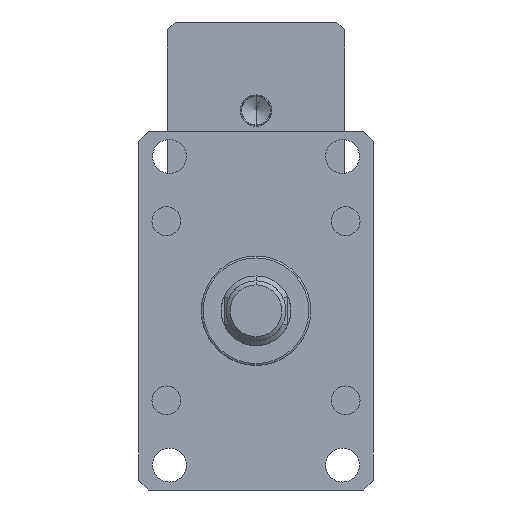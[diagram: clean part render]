
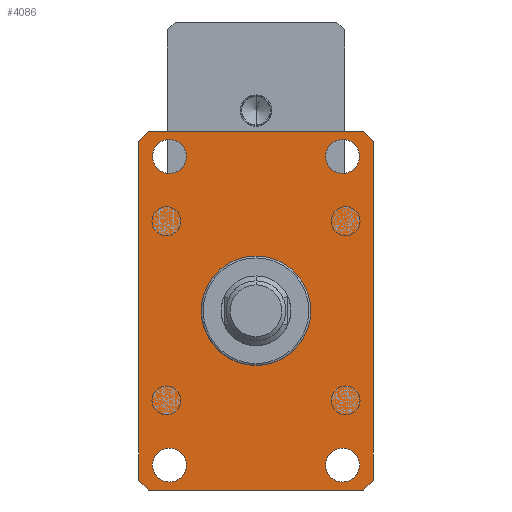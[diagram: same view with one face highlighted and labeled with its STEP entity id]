
A CAD part, front view. The second image highlights one B-rep face of the part: STEP entity #4086.
In plain terms, the highlighted planar face has unit normal (0, -1, 0).
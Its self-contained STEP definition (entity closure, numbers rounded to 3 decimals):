
#90 = ORIENTED_EDGE ( 'NONE', *, *, #12075, .F. ) ;
#123 = ORIENTED_EDGE ( 'NONE', *, *, #1282, .T. ) ;
#179 = VERTEX_POINT ( 'NONE', #1780 ) ;
#414 = EDGE_CURVE ( 'NONE', #3134, #4034, #1423, .T. ) ;
#416 = ORIENTED_EDGE ( 'NONE', *, *, #12633, .T. ) ;
#432 = DIRECTION ( 'NONE',  ( 0., 0., 1. ) ) ;
#697 = EDGE_CURVE ( 'NONE', #4902, #11137, #12599, .T. ) ;
#742 = ORIENTED_EDGE ( 'NONE', *, *, #10011, .T. ) ;
#796 = VERTEX_POINT ( 'NONE', #9262 ) ;
#840 = EDGE_CURVE ( 'NONE', #6824, #4250, #12748, .T. ) ;
#963 = AXIS2_PLACEMENT_3D ( 'NONE', #5141, #11966, #6104 ) ;
#997 = PLANE ( 'NONE',  #11522 ) ;
#1082 = CIRCLE ( 'NONE', #9802, 8.5 ) ;
#1107 = VERTEX_POINT ( 'NONE', #10269 ) ;
#1165 = CARTESIAN_POINT ( 'NONE',  ( -59., -55., -85. ) ) ;
#1273 = LINE ( 'NONE', #11817, #6516 ) ;
#1282 = EDGE_CURVE ( 'NONE', #7975, #796, #10456, .T. ) ;
#1299 = CARTESIAN_POINT ( 'NONE',  ( 59., -55., 85. ) ) ;
#1423 = CIRCLE ( 'NONE', #9517, 8.5 ) ;
#1440 = DIRECTION ( 'NONE',  ( 0., 0., 1. ) ) ;
#1576 = CIRCLE ( 'NONE', #9632, 8.5 ) ;
#1659 = CARTESIAN_POINT ( 'NONE',  ( -43.5, -55., -86. ) ) ;
#1734 = LINE ( 'NONE', #3087, #4060 ) ;
#1780 = CARTESIAN_POINT ( 'NONE',  ( 43.5, -55., -86. ) ) ;
#1921 = EDGE_LOOP ( 'NONE', ( #8375, #4723 ) ) ;
#1993 = CARTESIAN_POINT ( 'NONE',  ( 54., -55., 90. ) ) ;
#2007 = EDGE_LOOP ( 'NONE', ( #123, #416, #12405, #9098, #8796, #742, #5139, #5281 ) ) ;
#2079 = DIRECTION ( 'NONE',  ( -0.707, 0., 0.707 ) ) ;
#2126 = DIRECTION ( 'NONE',  ( 0., 1., 0. ) ) ;
#2192 = DIRECTION ( 'NONE',  ( 0.707, 0., -0.707 ) ) ;
#2195 = EDGE_LOOP ( 'NONE', ( #5740, #6973 ) ) ;
#2258 = DIRECTION ( 'NONE',  ( 0., 1., 0. ) ) ;
#2344 = VERTEX_POINT ( 'NONE', #8439 ) ;
#2414 = CIRCLE ( 'NONE', #963, 8.5 ) ;
#2599 = EDGE_CURVE ( 'NONE', #11578, #7975, #7464, .T. ) ;
#2785 = CARTESIAN_POINT ( 'NONE',  ( 54., -55., 90. ) ) ;
#2895 = CARTESIAN_POINT ( 'NONE',  ( -54., -55., -90. ) ) ;
#3035 = DIRECTION ( 'NONE',  ( 0., 0., 1. ) ) ;
#3087 = CARTESIAN_POINT ( 'NONE',  ( -59., -55., 85. ) ) ;
#3134 = VERTEX_POINT ( 'NONE', #12761 ) ;
#3169 = AXIS2_PLACEMENT_3D ( 'NONE', #7972, #2126, #8969 ) ;
#3278 = ORIENTED_EDGE ( 'NONE', *, *, #414, .F. ) ;
#3313 = CIRCLE ( 'NONE', #3494, 8.5 ) ;
#3468 = CARTESIAN_POINT ( 'NONE',  ( 43.5, -55., -77.5 ) ) ;
#3494 = AXIS2_PLACEMENT_3D ( 'NONE', #3596, #10422, #4579 ) ;
#3596 = CARTESIAN_POINT ( 'NONE',  ( -43.5, -55., 77.5 ) ) ;
#3730 = EDGE_LOOP ( 'NONE', ( #12178, #6587 ) ) ;
#4034 = VERTEX_POINT ( 'NONE', #12528 ) ;
#4060 = VECTOR ( 'NONE', #6961, 1000. ) ;
#4086 = ADVANCED_FACE ( 'NONE', ( #7288, #9578, #12170, #6979, #4387 ), #997, .F. ) ;
#4250 = VERTEX_POINT ( 'NONE', #6530 ) ;
#4387 = FACE_BOUND ( 'NONE', #10945, .T. ) ;
#4453 = DIRECTION ( 'NONE',  ( 0., 0., 1. ) ) ;
#4579 = DIRECTION ( 'NONE',  ( 0., 0., -1. ) ) ;
#4723 = ORIENTED_EDGE ( 'NONE', *, *, #5356, .F. ) ;
#4902 = VERTEX_POINT ( 'NONE', #1299 ) ;
#4986 = DIRECTION ( 'NONE',  ( 0.707, 0., 0.707 ) ) ;
#5099 = AXIS2_PLACEMENT_3D ( 'NONE', #12015, #11964, #11182 ) ;
#5123 = AXIS2_PLACEMENT_3D ( 'NONE', #12232, #6371, #432 ) ;
#5125 = VERTEX_POINT ( 'NONE', #7568 ) ;
#5139 = ORIENTED_EDGE ( 'NONE', *, *, #5536, .T. ) ;
#5141 = CARTESIAN_POINT ( 'NONE',  ( 43.5, -55., 77.5 ) ) ;
#5274 = EDGE_CURVE ( 'NONE', #5125, #179, #1576, .T. ) ;
#5281 = ORIENTED_EDGE ( 'NONE', *, *, #2599, .T. ) ;
#5356 = EDGE_CURVE ( 'NONE', #4250, #6824, #3313, .T. ) ;
#5536 = EDGE_CURVE ( 'NONE', #9230, #11578, #1734, .T. ) ;
#5562 = VECTOR ( 'NONE', #12517, 1000. ) ;
#5610 = EDGE_CURVE ( 'NONE', #179, #5125, #1082, .T. ) ;
#5740 = ORIENTED_EDGE ( 'NONE', *, *, #12706, .T. ) ;
#5794 = LINE ( 'NONE', #7769, #11019 ) ;
#6104 = DIRECTION ( 'NONE',  ( 0., 0., -1. ) ) ;
#6240 = EDGE_CURVE ( 'NONE', #8158, #2344, #6323, .T. ) ;
#6323 = CIRCLE ( 'NONE', #5123, 8.5 ) ;
#6371 = DIRECTION ( 'NONE',  ( 0., 1., 0. ) ) ;
#6516 = VECTOR ( 'NONE', #4986, 1000. ) ;
#6530 = CARTESIAN_POINT ( 'NONE',  ( -43.5, -55., 69. ) ) ;
#6587 = ORIENTED_EDGE ( 'NONE', *, *, #5610, .T. ) ;
#6806 = VERTEX_POINT ( 'NONE', #11955 ) ;
#6824 = VERTEX_POINT ( 'NONE', #9055 ) ;
#6874 = VECTOR ( 'NONE', #10971, 1000. ) ;
#6961 = DIRECTION ( 'NONE',  ( 0., 0., -1. ) ) ;
#6973 = ORIENTED_EDGE ( 'NONE', *, *, #6240, .T. ) ;
#6979 = FACE_OUTER_BOUND ( 'NONE', #2007, .T. ) ;
#7012 = LINE ( 'NONE', #12270, #8992 ) ;
#7288 = FACE_BOUND ( 'NONE', #1921, .T. ) ;
#7381 = CARTESIAN_POINT ( 'NONE',  ( -59., -55., -85. ) ) ;
#7464 = LINE ( 'NONE', #1165, #12649 ) ;
#7568 = CARTESIAN_POINT ( 'NONE',  ( 43.5, -55., -69. ) ) ;
#7769 = CARTESIAN_POINT ( 'NONE',  ( -59., -55., 85. ) ) ;
#7880 = CARTESIAN_POINT ( 'NONE',  ( 59., -55., -90. ) ) ;
#7972 = CARTESIAN_POINT ( 'NONE',  ( -43.5, -55., -77.5 ) ) ;
#7975 = VERTEX_POINT ( 'NONE', #11060 ) ;
#8107 = CARTESIAN_POINT ( 'NONE',  ( 43.5, -55., -77.5 ) ) ;
#8158 = VERTEX_POINT ( 'NONE', #1659 ) ;
#8375 = ORIENTED_EDGE ( 'NONE', *, *, #840, .F. ) ;
#8439 = CARTESIAN_POINT ( 'NONE',  ( -43.5, -55., -69. ) ) ;
#8755 = EDGE_CURVE ( 'NONE', #11137, #6806, #9471, .T. ) ;
#8792 = VECTOR ( 'NONE', #2079, 1000. ) ;
#8796 = ORIENTED_EDGE ( 'NONE', *, *, #8755, .T. ) ;
#8877 = DIRECTION ( 'NONE',  ( 0., 1., 0. ) ) ;
#8969 = DIRECTION ( 'NONE',  ( 0., 0., 1. ) ) ;
#8992 = VECTOR ( 'NONE', #1440, 1000. ) ;
#9055 = CARTESIAN_POINT ( 'NONE',  ( -43.5, -55., 86. ) ) ;
#9083 = DIRECTION ( 'NONE',  ( 0., 0., 1. ) ) ;
#9098 = ORIENTED_EDGE ( 'NONE', *, *, #697, .T. ) ;
#9230 = VERTEX_POINT ( 'NONE', #11081 ) ;
#9262 = CARTESIAN_POINT ( 'NONE',  ( 54., -55., -90. ) ) ;
#9471 = LINE ( 'NONE', #9952, #6874 ) ;
#9517 = AXIS2_PLACEMENT_3D ( 'NONE', #10254, #10227, #10210 ) ;
#9578 = FACE_BOUND ( 'NONE', #3730, .T. ) ;
#9632 = AXIS2_PLACEMENT_3D ( 'NONE', #3468, #10287, #4453 ) ;
#9802 = AXIS2_PLACEMENT_3D ( 'NONE', #8107, #2258, #9083 ) ;
#9952 = CARTESIAN_POINT ( 'NONE',  ( -54., -55., 90. ) ) ;
#10011 = EDGE_CURVE ( 'NONE', #6806, #9230, #5794, .T. ) ;
#10210 = DIRECTION ( 'NONE',  ( 0., 0., -1. ) ) ;
#10227 = DIRECTION ( 'NONE',  ( 0., -1., 0. ) ) ;
#10254 = CARTESIAN_POINT ( 'NONE',  ( 43.5, -55., 77.5 ) ) ;
#10269 = CARTESIAN_POINT ( 'NONE',  ( 59., -55., -85. ) ) ;
#10287 = DIRECTION ( 'NONE',  ( 0., 1., 0. ) ) ;
#10422 = DIRECTION ( 'NONE',  ( 0., -1., 0. ) ) ;
#10456 = LINE ( 'NONE', #2895, #5562 ) ;
#10945 = EDGE_LOOP ( 'NONE', ( #3278, #90 ) ) ;
#10971 = DIRECTION ( 'NONE',  ( -1., 0., 0. ) ) ;
#11019 = VECTOR ( 'NONE', #12615, 1000. ) ;
#11060 = CARTESIAN_POINT ( 'NONE',  ( -54., -55., -90. ) ) ;
#11081 = CARTESIAN_POINT ( 'NONE',  ( -59., -55., 85. ) ) ;
#11120 = CIRCLE ( 'NONE', #3169, 8.5 ) ;
#11137 = VERTEX_POINT ( 'NONE', #2785 ) ;
#11182 = DIRECTION ( 'NONE',  ( 0., 0., -1. ) ) ;
#11522 = AXIS2_PLACEMENT_3D ( 'NONE', #7880, #8877, #3035 ) ;
#11578 = VERTEX_POINT ( 'NONE', #7381 ) ;
#11589 = EDGE_CURVE ( 'NONE', #1107, #4902, #7012, .T. ) ;
#11817 = CARTESIAN_POINT ( 'NONE',  ( 54., -55., -90. ) ) ;
#11955 = CARTESIAN_POINT ( 'NONE',  ( -54., -55., 90. ) ) ;
#11964 = DIRECTION ( 'NONE',  ( 0., -1., 0. ) ) ;
#11966 = DIRECTION ( 'NONE',  ( 0., -1., 0. ) ) ;
#12015 = CARTESIAN_POINT ( 'NONE',  ( -43.5, -55., 77.5 ) ) ;
#12075 = EDGE_CURVE ( 'NONE', #4034, #3134, #2414, .T. ) ;
#12170 = FACE_BOUND ( 'NONE', #2195, .T. ) ;
#12178 = ORIENTED_EDGE ( 'NONE', *, *, #5274, .T. ) ;
#12232 = CARTESIAN_POINT ( 'NONE',  ( -43.5, -55., -77.5 ) ) ;
#12270 = CARTESIAN_POINT ( 'NONE',  ( 59., -55., 85. ) ) ;
#12405 = ORIENTED_EDGE ( 'NONE', *, *, #11589, .T. ) ;
#12517 = DIRECTION ( 'NONE',  ( 1., 0., 0. ) ) ;
#12528 = CARTESIAN_POINT ( 'NONE',  ( 43.5, -55., 69. ) ) ;
#12599 = LINE ( 'NONE', #1993, #8792 ) ;
#12615 = DIRECTION ( 'NONE',  ( -0.707, 0., -0.707 ) ) ;
#12633 = EDGE_CURVE ( 'NONE', #796, #1107, #1273, .T. ) ;
#12649 = VECTOR ( 'NONE', #2192, 1000. ) ;
#12706 = EDGE_CURVE ( 'NONE', #2344, #8158, #11120, .T. ) ;
#12748 = CIRCLE ( 'NONE', #5099, 8.5 ) ;
#12761 = CARTESIAN_POINT ( 'NONE',  ( 43.5, -55., 86. ) ) ;
